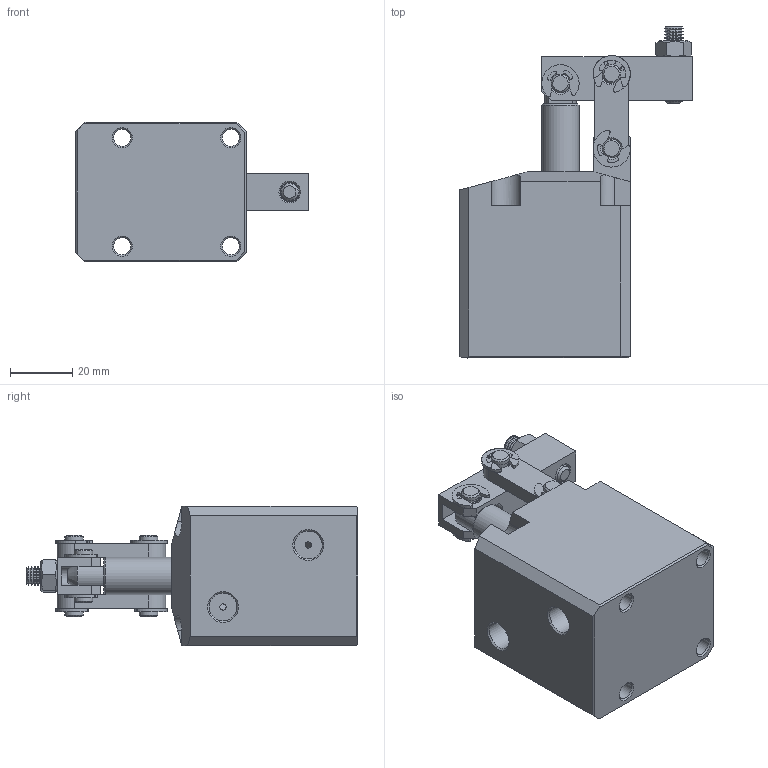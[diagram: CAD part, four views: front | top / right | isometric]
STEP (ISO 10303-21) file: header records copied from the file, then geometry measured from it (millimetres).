
FILE_DESCRIPTION(/* description */ ('STEP AP203'),/* implementation_level */ '2;1');
FILE_NAME(/* name */ 'D:\Vault_2016\Projekty\Clamptek\Hydraulic\CBLU\CBLU-25\STEP\CBLU-25.stp',/* time_stamp */ '2021-05-06T11:48:06+02:00',/* author */ ('user'),/* organization */ (''),/* preprocessor_version */ 'ST-DEVELOPER v18.1',/* originating_system */ 'Autodesk Inventor 2021',/* authorisation */ '');
FILE_SCHEMA (('AUTOMOTIVE_DESIGN { 1 0 10303 214 3 1 1 }'));
Length unit declared in the file: millimetre
Products named in the file (10): CBLU-25; ±¾Ìå_1_1; »îÈû¸Ë_5_1; Ñ¹±Û; Á¬¸Ë; hex nuts, style 1-grades ab gb_GB_FASTENER_NUT_SNAB1 M6-N; ³¤ÏúÖá; ¶ÌÏúÖá; socket set screw flat point_iso2_ISO 4026 - M6 x 4-S; e rings gb_GB_CONNECTING_PIECE_RINGS_HR 6
Assembly tree (17 placements, depth 2):
  CBLU-25
    ±¾Ìå_1_1
    »îÈû¸Ë_5_1
    Ñ¹±Û
    Á¬¸Ë  x2
    hex nuts, style 1-grades ab gb_GB_FASTENER_NUT_SNAB1 M6-N
    e rings gb_GB_CONNECTING_PIECE_RINGS_HR 6  x7
    ³¤ÏúÖá  x2
    ¶ÌÏúÖá
    socket set screw flat point_iso2_ISO 4026 - M6 x 4-S
Bounding box: 75 x 107 x 45 mm (x, y, z)
Volume: 141970.2 mm3; surface area: 38311.4 mm2
Topology: 18 solids, 18 shells, 446 faces, 1133 edges, 742 vertices
Faces by surface type: cylinder 181, plane 168, cone 92, bspline 5
Full cylindrical faces by diameter (mm): 2 x2, 2.5 x1, 4.917 x1, 5 x6, 5.5 x4, 6 x63, 9 x2, 12 x1, 25 x2, 30 x1, 32 x1
Entity records: 18728 total; most frequent: CARTESIAN_POINT 10899, DIRECTION 1637, ORIENTED_EDGE 1522, EDGE_CURVE 761, AXIS2_PLACEMENT_3D 628, VERTEX_POINT 495, LINE 381, VECTOR 381
